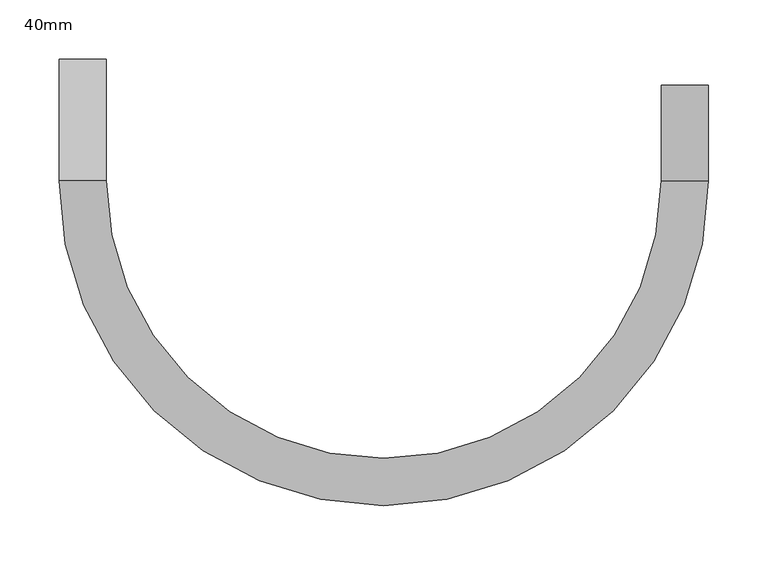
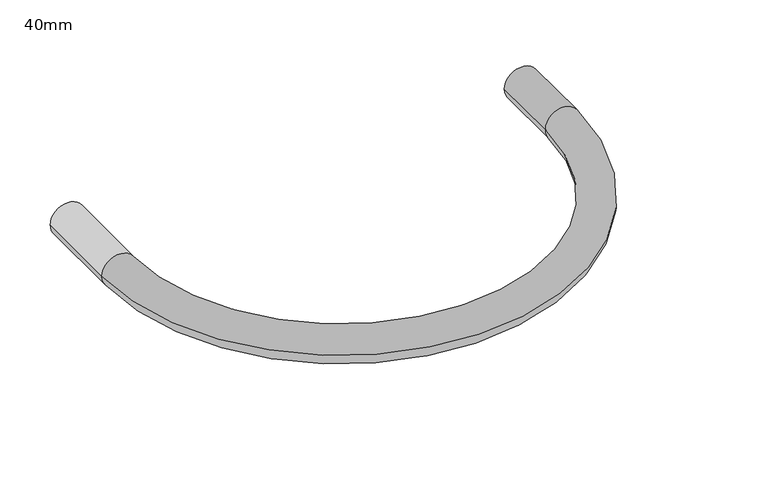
"""IFC4 building model written with IfcOpenShell, lengths in millimetres: pipe fitting geometry, PipeAccessory_HTA_CPVC_ExpansionJoints : 40mm."""

from ifc_helpers import new_model, si_unit, point, frame, origin, origin_with_axes, place, context, project, spatial, circle_curve, ellipse_curve, trimmed, source, transform, mapped, element, save
from ifc_brep_helpers import plane_surface, cylinder_surface, revolved_surface, advanced_brep


def pipe_fitting_40mm_19036f9e(model_context):
    return source(origin(), model_context, "Body", "AdvancedBrep", [
        advanced_brep(
        [(235.0, 81.0, 0.0), (275.0, 81.0, 0.0), (235.0, 0.0, 0.0), (275.0, 0.0, 0.0), (-275.0, 0.0, 0.0), (-235.0, 0.0, 0.0), (-235.0, 103.0, 0.0), (-275.0, 103.0, 0.0)],
        [
            (0, 1, circle_curve(frame((255.0, 81.0, 0.0), z_axis=(0.0, 1.0, 0.0), x_axis=(1.0, 0.0, 0.0)), 20.0)),
            (1, 0, circle_curve(frame((255.0, 81.0, 0.0), z_axis=(0.0, 1.0, 0.0), x_axis=(1.0, 0.0, 0.0)), 20.0)),
            (0, 2),
            (2, 3, circle_curve(frame((255.0, 0.0, 0.0), z_axis=(0.0, 1.0, 0.0), x_axis=(1.0, 0.0, 0.0)), 20.0)),
            (3, 1),
            (3, 2, circle_curve(frame((255.0, 0.0, 0.0), z_axis=(0.0, 1.0, 0.0), x_axis=(1.0, 0.0, 0.0)), 20.0)),
            (4, 3, circle_curve(origin_with_axes(), 275.0)),
            (2, 5, circle_curve(frame((0.0, 0.0, 0.0), z_axis=(0.0, 0.0, -1.0), x_axis=(1.0, 0.0, 0.0)), 235.0)),
            (5, 4, circle_curve(frame((-255.0, 0.0, 0.0), z_axis=(0.0, -1.0, 0.0), x_axis=(-1.0, 0.0, 0.0)), 20.0)),
            (4, 5, circle_curve(frame((-255.0, 0.0, 0.0), z_axis=(0.0, -1.0, 0.0), x_axis=(-1.0, 0.0, 0.0)), 20.0)),
            (6, 7, circle_curve(frame((-255.0, 103.0, 0.0), z_axis=(0.0, 1.0, 0.0), x_axis=(-1.0, 0.0, 0.0)), 20.0)),
            (7, 6, circle_curve(frame((-255.0, 103.0, 0.0), z_axis=(0.0, 1.0, 0.0), x_axis=(-1.0, 0.0, 0.0)), 20.0)),
            (5, 6),
            (7, 4),
        ],
        [
            plane_surface(frame((255.0, 81.0, 0.0), z_axis=(0.0, 1.0, 0.0), x_axis=(0.0, 0.0, 1.0))),
            cylinder_surface(frame((255.0, 81.0, 0.0), z_axis=(0.0, 1.0, 0.0), x_axis=(1.0, 0.0, 0.0)), 20.0),
            revolved_surface(trimmed(ellipse_curve(frame((255.0, 0.0, 0.0), z_axis=(0.0, 1.0, 0.0), x_axis=(1.0, 0.0, 0.0)), 20.0, 20.0), [point((235.0, 0.0, 0.0))], [point((275.0, 0.0, 0.0))], True, "CARTESIAN"), (0.0, 0.0, 0.0), (0.0, 0.0, -1.0)),
            revolved_surface(trimmed(ellipse_curve(frame((255.0, 0.0, 0.0), z_axis=(0.0, 1.0, 0.0), x_axis=(1.0, 0.0, 0.0)), 20.0, 20.0), [point((275.0, 0.0, 0.0))], [point((235.0, 0.0, 0.0))], True, "CARTESIAN"), (0.0, 0.0, 0.0), (0.0, 0.0, -1.0)),
            plane_surface(frame((-255.0, 103.0, 0.0), z_axis=(0.0, 1.0, 0.0), x_axis=(0.0, 0.0, 1.0))),
            cylinder_surface(frame((-255.0, 0.0, 0.0), z_axis=(0.0, -1.0, 0.0), x_axis=(-1.0, 0.0, 0.0)), 20.0),
        ],
        [
            (0, [[1, 2]]),
            (1, [[-1, 3, 4, 5]]),
            (1, [[-2, -5, 6, -3]]),
            (2, [[7, -4, 8, 9]]),
            (3, [[-8, -6, -7, 10]]),
            (4, [[11, 12]]),
            (5, [[-9, 13, -12, 14]]),
            (5, [[-10, -14, -11, -13]]),
        ],
    ),
    ])


if __name__ == "__main__":
    model = new_model("IFC4")
    model_context = context("Model", 3, world=origin())
    ifc_project = project(units=[si_unit("LENGTHUNIT", "METRE", prefix="MILLI")], contexts=[model_context])
    site = spatial("IfcSite", under=ifc_project)
    building = spatial("IfcBuilding", under=site)
    placement = place(None, origin())
    pipe_fitting_40mm_shape = pipe_fitting_40mm_19036f9e(model_context)
    element("IfcPipeFitting", 1, ObjectType="PipeAccessory_HTA_CPVC_ExpansionJoints : 40mm", at=placement, inside=building, context=model_context, shape_type="MappedRepresentation", body=[
        mapped(pipe_fitting_40mm_shape, transform((0.0, 0.0, 0.0), x_axis=(1.0, 0.0, 0.0), y_axis=(0.0, 1.0, 0.0), z_axis=(0.0, 0.0, 1.0))),
    ])
    save(model, "model.ifc")
